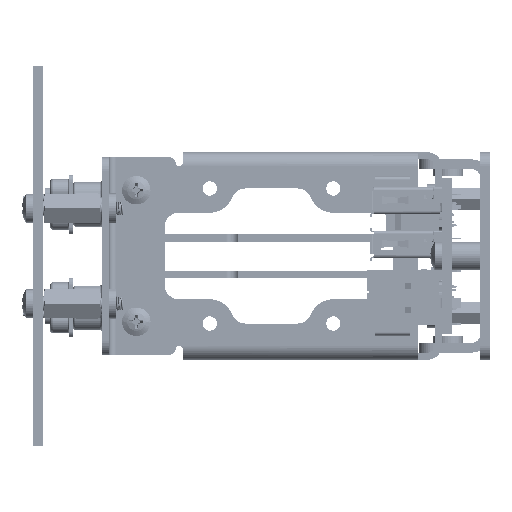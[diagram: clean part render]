
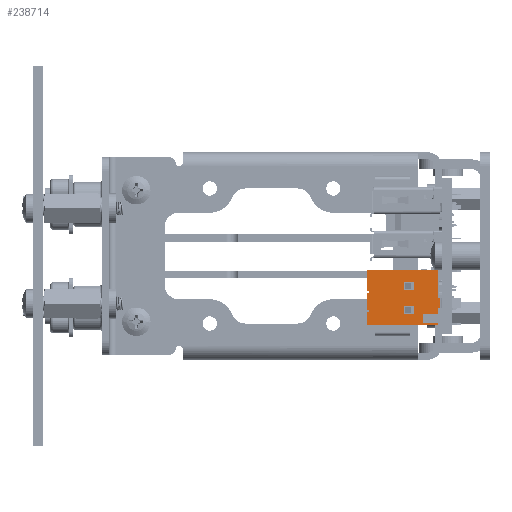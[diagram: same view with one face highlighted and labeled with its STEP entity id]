
A CAD part, left-side view. The second image highlights one B-rep face of the part: STEP entity #238714.
In plain terms, the highlighted planar face has unit normal (-1, 0, 0) as drawn and (1, 0, 0) by its records, which use the part's own axes.
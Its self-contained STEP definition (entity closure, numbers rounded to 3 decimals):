
#231419=DIRECTION('',(0.,-1.,0.));
#231420=VECTOR('',#231419,5.858);
#231421=CARTESIAN_POINT('',(6.013,5.728,-14.59));
#231422=LINE('',#231421,#231420);
#231423=DIRECTION('',(0.,0.,1.));
#231424=VECTOR('',#231423,0.36);
#231425=CARTESIAN_POINT('',(6.013,-2.17,-14.95));
#231426=LINE('',#231425,#231424);
#231427=DIRECTION('',(0.,-1.,0.));
#231428=VECTOR('',#231427,1.3);
#231429=CARTESIAN_POINT('',(6.013,-2.17,-14.59));
#231430=LINE('',#231429,#231428);
#231431=DIRECTION('',(0.,0.,1.));
#231432=VECTOR('',#231431,0.04);
#231433=CARTESIAN_POINT('',(6.013,-3.47,-14.59));
#231434=LINE('',#231433,#231432);
#231435=DIRECTION('',(0.,-1.,0.));
#231436=VECTOR('',#231435,1.49);
#231437=CARTESIAN_POINT('',(6.013,-3.47,-11.3));
#231438=LINE('',#231437,#231436);
#231439=DIRECTION('',(0.,-1.,0.));
#231440=VECTOR('',#231439,0.45);
#231441=CARTESIAN_POINT('',(6.013,-4.96,-11.3));
#231442=LINE('',#231441,#231440);
#231443=DIRECTION('',(0.,0.,1.));
#231444=VECTOR('',#231443,14.908);
#231445=CARTESIAN_POINT('',(6.013,-5.728,-14.59));
#231446=LINE('',#231445,#231444);
#231447=DIRECTION('',(0.,0.,-1.));
#231448=VECTOR('',#231447,0.318);
#231449=CARTESIAN_POINT('',(6.013,-3.05,0.318));
#231450=LINE('',#231449,#231448);
#231451=DIRECTION('',(0.,1.,0.));
#231452=VECTOR('',#231451,0.5);
#231453=CARTESIAN_POINT('',(6.013,-3.05,0.));
#231454=LINE('',#231453,#231452);
#231455=DIRECTION('',(0.,1.,0.));
#231456=VECTOR('',#231455,3.5);
#231457=CARTESIAN_POINT('',(6.013,-2.55,0.318));
#231458=LINE('',#231457,#231456);
#231459=DIRECTION('',(0.,0.,-1.));
#231460=VECTOR('',#231459,0.318);
#231461=CARTESIAN_POINT('',(6.013,0.95,0.318));
#231462=LINE('',#231461,#231460);
#231463=DIRECTION('',(0.,1.,0.));
#231464=VECTOR('',#231463,0.5);
#231465=CARTESIAN_POINT('',(6.013,0.95,0.));
#231466=LINE('',#231465,#231464);
#231467=DIRECTION('',(0.,0.,-1.));
#231468=VECTOR('',#231467,14.908);
#231469=CARTESIAN_POINT('',(6.013,5.728,0.318));
#231470=LINE('',#231469,#231468);
#231525=DIRECTION('',(0.,0.,1.));
#231526=VECTOR('',#231525,0.36);
#231527=CARTESIAN_POINT('',(6.013,-0.13,-14.95));
#231528=LINE('',#231527,#231526);
#231561=DIRECTION('',(0.,1.,0.));
#231562=VECTOR('',#231561,2.04);
#231563=CARTESIAN_POINT('',(6.013,-2.17,-14.95));
#231564=LINE('',#231563,#231562);
#231585=DIRECTION('',(0.,0.,-1.));
#231586=VECTOR('',#231585,3.25);
#231587=CARTESIAN_POINT('',(6.013,-3.47,-11.3));
#231588=LINE('',#231587,#231586);
#231782=DIRECTION('',(0.,0.,1.));
#231783=VECTOR('',#231782,3.29);
#231784=CARTESIAN_POINT('',(6.013,-5.41,-14.59));
#231785=LINE('',#231784,#231783);
#231858=DIRECTION('',(0.,1.,0.));
#231859=VECTOR('',#231858,0.318);
#231860=CARTESIAN_POINT('',(6.013,-5.728,-14.59));
#231861=LINE('',#231860,#231859);
#232969=DIRECTION('',(0.,-1.,0.));
#232970=VECTOR('',#232969,4.278);
#232971=CARTESIAN_POINT('',(6.013,5.728,0.318));
#232972=LINE('',#232971,#232970);
#232977=DIRECTION('',(0.,0.,-1.));
#232978=VECTOR('',#232977,0.318);
#232979=CARTESIAN_POINT('',(6.013,1.45,0.318));
#232980=LINE('',#232979,#232978);
#233161=DIRECTION('',(0.,0.,-1.));
#233162=VECTOR('',#233161,0.318);
#233163=CARTESIAN_POINT('',(6.013,-2.55,0.318));
#233164=LINE('',#233163,#233162);
#233740=DIRECTION('',(0.,-1.,0.));
#233741=VECTOR('',#233740,2.678);
#233742=CARTESIAN_POINT('',(6.013,-3.05,0.318));
#233743=LINE('',#233742,#233741);
#236073=DIRECTION('',(0.,0.,1.));
#236074=VECTOR('',#236073,2.11);
#236075=CARTESIAN_POINT('',(6.013,-3.328,-9.45));
#236076=LINE('',#236075,#236074);
#236081=DIRECTION('',(0.,1.,0.));
#236082=VECTOR('',#236081,1.65);
#236083=CARTESIAN_POINT('',(6.013,-3.328,-7.34));
#236084=LINE('',#236083,#236082);
#236089=DIRECTION('',(0.,0.,-1.));
#236090=VECTOR('',#236089,2.11);
#236091=CARTESIAN_POINT('',(6.013,-1.678,-7.34));
#236092=LINE('',#236091,#236090);
#236097=DIRECTION('',(0.,-1.,0.));
#236098=VECTOR('',#236097,1.65);
#236099=CARTESIAN_POINT('',(6.013,-1.678,-9.45));
#236100=LINE('',#236099,#236098);
#236105=DIRECTION('',(0.,0.,1.));
#236106=VECTOR('',#236105,2.11);
#236107=CARTESIAN_POINT('',(6.013,1.678,-9.45));
#236108=LINE('',#236107,#236106);
#236113=DIRECTION('',(0.,1.,0.));
#236114=VECTOR('',#236113,1.65);
#236115=CARTESIAN_POINT('',(6.013,1.678,-7.34));
#236116=LINE('',#236115,#236114);
#236121=DIRECTION('',(0.,0.,-1.));
#236122=VECTOR('',#236121,2.11);
#236123=CARTESIAN_POINT('',(6.013,3.328,-7.34));
#236124=LINE('',#236123,#236122);
#236129=DIRECTION('',(0.,-1.,0.));
#236130=VECTOR('',#236129,1.65);
#236131=CARTESIAN_POINT('',(6.013,3.328,-9.45));
#236132=LINE('',#236131,#236130);
#236473=CARTESIAN_POINT('',(6.013,0.95,0.));
#236474=VERTEX_POINT('',#236473);
#236475=CARTESIAN_POINT('',(6.013,0.95,0.318));
#236476=VERTEX_POINT('',#236475);
#236576=CARTESIAN_POINT('',(6.013,-2.17,-14.59));
#236578=VERTEX_POINT('',#236576);
#236581=CARTESIAN_POINT('',(6.013,-3.47,-14.59));
#236582=VERTEX_POINT('',#236581);
#236595=CARTESIAN_POINT('',(6.013,5.728,-14.59));
#236597=VERTEX_POINT('',#236595);
#236605=CARTESIAN_POINT('',(6.013,-0.13,-14.59));
#236606=VERTEX_POINT('',#236605);
#236607=CARTESIAN_POINT('',(6.013,-2.17,-14.95));
#236608=VERTEX_POINT('',#236607);
#236653=CARTESIAN_POINT('',(6.013,-0.13,-14.95));
#236654=VERTEX_POINT('',#236653);
#236655=CARTESIAN_POINT('',(6.013,-3.47,-14.55));
#236656=VERTEX_POINT('',#236655);
#236657=CARTESIAN_POINT('',(6.013,-3.47,-11.3));
#236658=VERTEX_POINT('',#236657);
#236659=CARTESIAN_POINT('',(6.013,-4.96,-11.3));
#236660=VERTEX_POINT('',#236659);
#236661=CARTESIAN_POINT('',(6.013,-5.41,-11.3));
#236662=VERTEX_POINT('',#236661);
#236663=CARTESIAN_POINT('',(6.013,-5.41,-14.59));
#236664=VERTEX_POINT('',#236663);
#236665=CARTESIAN_POINT('',(6.013,-5.728,-14.59));
#236666=VERTEX_POINT('',#236665);
#236667=CARTESIAN_POINT('',(6.013,-5.728,0.318));
#236668=VERTEX_POINT('',#236667);
#236669=CARTESIAN_POINT('',(6.013,-3.05,0.318));
#236670=VERTEX_POINT('',#236669);
#236671=CARTESIAN_POINT('',(6.013,-3.05,0.));
#236672=VERTEX_POINT('',#236671);
#236673=CARTESIAN_POINT('',(6.013,-2.55,0.));
#236674=VERTEX_POINT('',#236673);
#236675=CARTESIAN_POINT('',(6.013,-2.55,0.318));
#236676=VERTEX_POINT('',#236675);
#236677=CARTESIAN_POINT('',(6.013,1.45,0.));
#236678=VERTEX_POINT('',#236677);
#236679=CARTESIAN_POINT('',(6.013,1.45,0.318));
#236680=VERTEX_POINT('',#236679);
#236681=CARTESIAN_POINT('',(6.013,5.728,0.318));
#236682=VERTEX_POINT('',#236681);
#236683=CARTESIAN_POINT('',(6.013,-3.328,-9.45));
#236684=CARTESIAN_POINT('',(6.013,-3.328,-7.34));
#236685=VERTEX_POINT('',#236683);
#236686=VERTEX_POINT('',#236684);
#236687=CARTESIAN_POINT('',(6.013,-1.678,-9.45));
#236688=VERTEX_POINT('',#236687);
#236689=CARTESIAN_POINT('',(6.013,-1.678,-7.34));
#236690=VERTEX_POINT('',#236689);
#236691=CARTESIAN_POINT('',(6.013,1.678,-9.45));
#236692=CARTESIAN_POINT('',(6.013,1.678,-7.34));
#236693=VERTEX_POINT('',#236691);
#236694=VERTEX_POINT('',#236692);
#236695=CARTESIAN_POINT('',(6.013,3.328,-9.45));
#236696=VERTEX_POINT('',#236695);
#236697=CARTESIAN_POINT('',(6.013,3.328,-7.34));
#236698=VERTEX_POINT('',#236697);
#238647=CARTESIAN_POINT('',(6.013,1.45,0.));
#238648=DIRECTION('',(1.,0.,0.));
#238649=DIRECTION('',(0.,1.,0.));
#238650=AXIS2_PLACEMENT_3D('',#238647,#238648,#238649);
#238651=PLANE('',#238650);
#238652=ORIENTED_EDGE('',*,*,#238484,.T.);
#238654=ORIENTED_EDGE('',*,*,#238653,.F.);
#238656=ORIENTED_EDGE('',*,*,#238655,.F.);
#238657=ORIENTED_EDGE('',*,*,#238619,.T.);
#238658=ORIENTED_EDGE('',*,*,#238608,.T.);
#238660=ORIENTED_EDGE('',*,*,#238659,.T.);
#238662=ORIENTED_EDGE('',*,*,#238661,.F.);
#238664=ORIENTED_EDGE('',*,*,#238663,.T.);
#238666=ORIENTED_EDGE('',*,*,#238665,.T.);
#238668=ORIENTED_EDGE('',*,*,#238667,.F.);
#238670=ORIENTED_EDGE('',*,*,#238669,.F.);
#238672=ORIENTED_EDGE('',*,*,#238671,.T.);
#238674=ORIENTED_EDGE('',*,*,#238673,.F.);
#238676=ORIENTED_EDGE('',*,*,#238675,.T.);
#238678=ORIENTED_EDGE('',*,*,#238677,.T.);
#238680=ORIENTED_EDGE('',*,*,#238679,.F.);
#238682=ORIENTED_EDGE('',*,*,#238681,.T.);
#238684=ORIENTED_EDGE('',*,*,#238683,.T.);
#238686=ORIENTED_EDGE('',*,*,#238685,.T.);
#238688=ORIENTED_EDGE('',*,*,#238687,.F.);
#238690=ORIENTED_EDGE('',*,*,#238689,.F.);
#238691=ORIENTED_EDGE('',*,*,#238400,.T.);
#238692=EDGE_LOOP('',(#238652,#238654,#238656,#238657,#238658,#238660,#238662,
#238664,#238666,#238668,#238670,#238672,#238674,#238676,#238678,#238680,#238682,
#238684,#238686,#238688,#238690,#238691));
#238693=FACE_OUTER_BOUND('',#238692,.F.);
#238695=ORIENTED_EDGE('',*,*,#238694,.F.);
#238697=ORIENTED_EDGE('',*,*,#238696,.F.);
#238699=ORIENTED_EDGE('',*,*,#238698,.F.);
#238701=ORIENTED_EDGE('',*,*,#238700,.F.);
#238702=EDGE_LOOP('',(#238695,#238697,#238699,#238701));
#238703=FACE_BOUND('',#238702,.F.);
#238705=ORIENTED_EDGE('',*,*,#238704,.F.);
#238707=ORIENTED_EDGE('',*,*,#238706,.F.);
#238709=ORIENTED_EDGE('',*,*,#238708,.F.);
#238711=ORIENTED_EDGE('',*,*,#238710,.F.);
#238712=EDGE_LOOP('',(#238705,#238707,#238709,#238711));
#238713=FACE_BOUND('',#238712,.F.);
#238400=EDGE_CURVE('',#236682,#236597,#231470,.T.);
#238484=EDGE_CURVE('',#236597,#236606,#231422,.T.);
#238608=EDGE_CURVE('',#236578,#236582,#231430,.T.);
#238619=EDGE_CURVE('',#236608,#236578,#231426,.T.);
#238653=EDGE_CURVE('',#236654,#236606,#231528,.T.);
#238655=EDGE_CURVE('',#236608,#236654,#231564,.T.);
#238659=EDGE_CURVE('',#236582,#236656,#231434,.T.);
#238661=EDGE_CURVE('',#236658,#236656,#231588,.T.);
#238663=EDGE_CURVE('',#236658,#236660,#231438,.T.);
#238665=EDGE_CURVE('',#236660,#236662,#231442,.T.);
#238667=EDGE_CURVE('',#236664,#236662,#231785,.T.);
#238669=EDGE_CURVE('',#236666,#236664,#231861,.T.);
#238671=EDGE_CURVE('',#236666,#236668,#231446,.T.);
#238673=EDGE_CURVE('',#236670,#236668,#233743,.T.);
#238675=EDGE_CURVE('',#236670,#236672,#231450,.T.);
#238677=EDGE_CURVE('',#236672,#236674,#231454,.T.);
#238679=EDGE_CURVE('',#236676,#236674,#233164,.T.);
#238681=EDGE_CURVE('',#236676,#236476,#231458,.T.);
#238683=EDGE_CURVE('',#236476,#236474,#231462,.T.);
#238685=EDGE_CURVE('',#236474,#236678,#231466,.T.);
#238687=EDGE_CURVE('',#236680,#236678,#232980,.T.);
#238689=EDGE_CURVE('',#236682,#236680,#232972,.T.);
#238694=EDGE_CURVE('',#236685,#236686,#236076,.T.);
#238696=EDGE_CURVE('',#236688,#236685,#236100,.T.);
#238698=EDGE_CURVE('',#236690,#236688,#236092,.T.);
#238700=EDGE_CURVE('',#236686,#236690,#236084,.T.);
#238704=EDGE_CURVE('',#236693,#236694,#236108,.T.);
#238706=EDGE_CURVE('',#236696,#236693,#236132,.T.);
#238708=EDGE_CURVE('',#236698,#236696,#236124,.T.);
#238710=EDGE_CURVE('',#236694,#236698,#236116,.T.);
#238714=ADVANCED_FACE('',(#238693,#238703,#238713),#238651,.T.);
